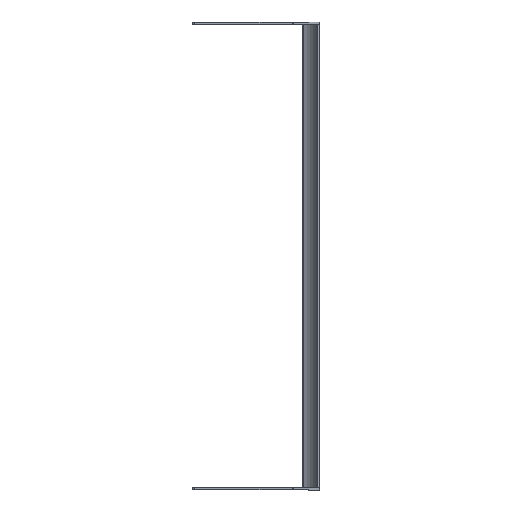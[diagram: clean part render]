
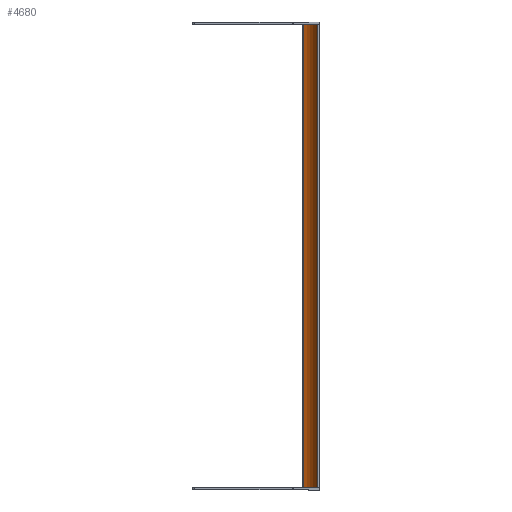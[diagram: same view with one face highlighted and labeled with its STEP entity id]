
A CAD part, front view. The second image highlights one B-rep face of the part: STEP entity #4680.
In plain terms, the highlighted cylindrical face has radius 40.64 mm (diameter 81.28 mm), a partial arc.
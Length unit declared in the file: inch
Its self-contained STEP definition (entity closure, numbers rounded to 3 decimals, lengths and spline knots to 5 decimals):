
#4387=CARTESIAN_POINT('',(-1.52,1.63,-14.118));
#4388=DIRECTION('',(0.,0.,-1.));
#4389=DIRECTION('',(0.914,-0.405,0.));
#4390=AXIS2_PLACEMENT_3D('',#4387,#4388,#4389);
#4434=CARTESIAN_POINT('',(-1.52,1.63,14.118));
#4435=DIRECTION('',(0.,0.,-1.));
#4436=DIRECTION('',(0.914,-0.405,0.));
#4437=AXIS2_PLACEMENT_3D('',#4434,#4435,#4436);
#4465=DIRECTION('',(0.,0.,1.));
#4466=VECTOR('',#4465,28.236);
#4467=CARTESIAN_POINT('',(-1.00032,0.11675,-14.118));
#4468=LINE('',#4467,#4466);
#4469=DIRECTION('',(0.,0.,1.));
#4470=VECTOR('',#4469,28.236);
#4471=CARTESIAN_POINT('',(-0.05742,0.98126,-14.118));
#4472=LINE('',#4471,#4470);
#4501=CARTESIAN_POINT('',(-0.05742,0.98126,-14.118));
#4502=VERTEX_POINT('',#4501);
#4503=CARTESIAN_POINT('',(-1.00032,0.11675,-14.118));
#4504=VERTEX_POINT('',#4503);
#4521=CARTESIAN_POINT('',(-0.05742,0.98126,14.118));
#4522=VERTEX_POINT('',#4521);
#4523=CARTESIAN_POINT('',(-1.00032,0.11675,14.118));
#4524=VERTEX_POINT('',#4523);
#4668=CARTESIAN_POINT('',(-1.52,1.63,-14.118));
#4669=DIRECTION('',(0.,0.,1.));
#4670=DIRECTION('',(1.,0.,0.));
#4671=AXIS2_PLACEMENT_3D('',#4668,#4669,#4670);
#4672=CYLINDRICAL_SURFACE('',#4671,1.6);
#4673=ORIENTED_EDGE('',*,*,#4538,.F.);
#4675=ORIENTED_EDGE('',*,*,#4674,.T.);
#4676=ORIENTED_EDGE('',*,*,#4594,.T.);
#4677=ORIENTED_EDGE('',*,*,#4661,.F.);
#4678=EDGE_LOOP('',(#4673,#4675,#4676,#4677));
#4679=FACE_OUTER_BOUND('',#4678,.F.);
#4391=CIRCLE('',#4390,1.6);
#4438=CIRCLE('',#4437,1.6);
#4538=EDGE_CURVE('',#4502,#4504,#4391,.T.);
#4594=EDGE_CURVE('',#4522,#4524,#4438,.T.);
#4661=EDGE_CURVE('',#4504,#4524,#4468,.T.);
#4674=EDGE_CURVE('',#4502,#4522,#4472,.T.);
#4680=ADVANCED_FACE('',(#4679),#4672,.F.);
